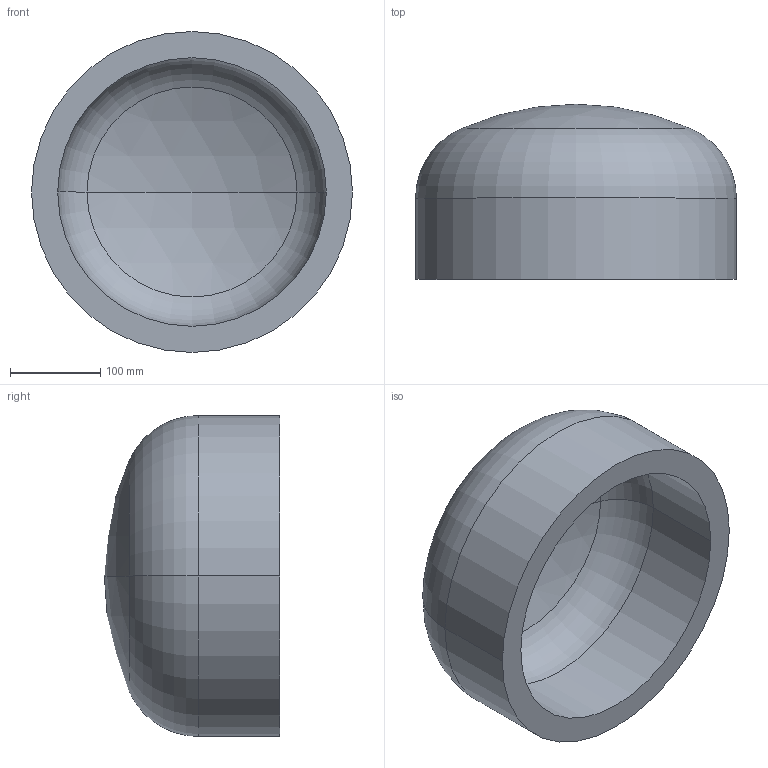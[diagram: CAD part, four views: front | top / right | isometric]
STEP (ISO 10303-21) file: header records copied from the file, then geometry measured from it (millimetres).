
FILE_DESCRIPTION (( 'STEP AP203' ), '1' );
FILE_NAME ('DIN 28013 Korbbogenform_-_Boden DIN 28013 - 355,6 x 90 - I - s=29.step', '2016-07-01T07:47:24', ( '' ), ( '' ), 'SwSTEP 2.0', 'SolidWorks 2013', '' );
FILE_SCHEMA (( 'CONFIG_CONTROL_DESIGN' ));
Length unit declared in the file: millimetre
Products named in the file (1): DIN 28013 Korbbogenform_-_Boden DIN 28013 - 355,6 x 90 - I - s=29
Bounding box: 355.6 x 194.09 x 355.6 mm (x, y, z)
Volume: 6282708.9 mm3; surface area: 464806.9 mm2
Topology: 1 solids, 1 shells, 13 faces, 24 edges, 14 vertices
Faces by surface type: torus 4, cylinder 4, sphere 4, plane 1
Entity records: 407 total; most frequent: DIRECTION 72, CARTESIAN_POINT 52, ORIENTED_EDGE 48, AXIS2_PLACEMENT_3D 34, EDGE_CURVE 24, CIRCLE 20, VERTEX_POINT 14, EDGE_LOOP 14
